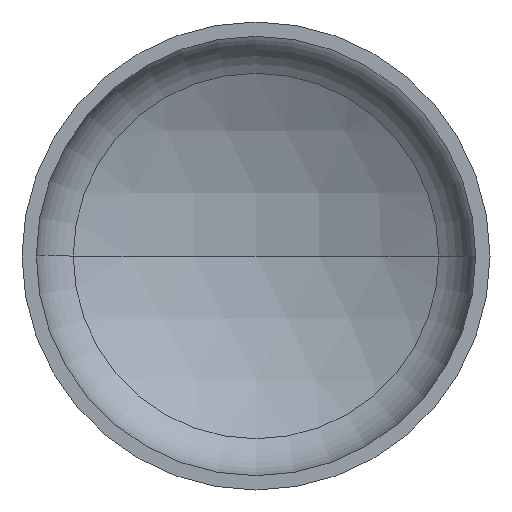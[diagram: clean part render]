
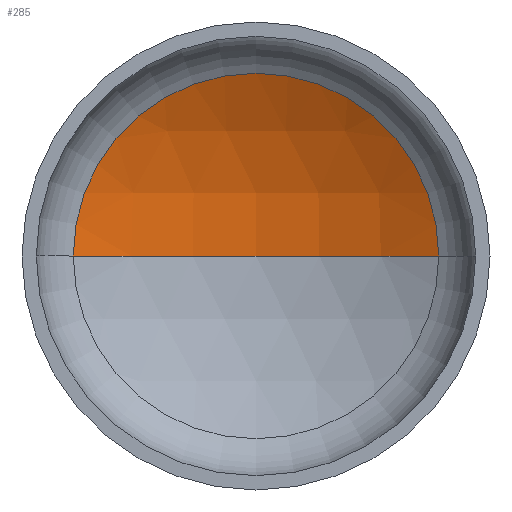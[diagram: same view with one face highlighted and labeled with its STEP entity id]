
A CAD part, front view. The second image highlights one B-rep face of the part: STEP entity #285.
In plain terms, the highlighted spherical face has radius 2880 mm.
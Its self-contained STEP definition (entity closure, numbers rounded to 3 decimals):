
#6 = AXIS2_PLACEMENT_3D ( 'NONE', #367, #234, #388 ) ;
#15 = AXIS2_PLACEMENT_3D ( 'NONE', #274, #90, #302 ) ;
#25 = AXIS2_PLACEMENT_3D ( 'NONE', #316, #362, #297 ) ;
#54 = AXIS2_PLACEMENT_3D ( 'NONE', #315, #177, #338 ) ;
#81 = CIRCLE ( 'NONE', #54, 1405.935 ) ;
#90 = DIRECTION ( 'NONE',  ( 0., 0., 1. ) ) ;
#114 = ORIENTED_EDGE ( 'NONE', *, *, #126, .T. ) ;
#126 = EDGE_CURVE ( 'NONE', #162, #163, #81, .T. ) ;
#128 = EDGE_LOOP ( 'NONE', ( #136, #401, #114 ) ) ;
#136 = ORIENTED_EDGE ( 'NONE', *, *, #337, .F. ) ;
#149 = CIRCLE ( 'NONE', #6, 2880. ) ;
#153 = VERTEX_POINT ( 'NONE', #292 ) ;
#162 = VERTEX_POINT ( 'NONE', #227 ) ;
#163 = VERTEX_POINT ( 'NONE', #360 ) ;
#177 = DIRECTION ( 'NONE',  ( 0., -1., 0. ) ) ;
#200 = FACE_OUTER_BOUND ( 'NONE', #128, .T. ) ;
#227 = CARTESIAN_POINT ( 'NONE',  ( 1405.935, 559.375, 0. ) ) ;
#234 = DIRECTION ( 'NONE',  ( 0., 0., -1. ) ) ;
#238 = SPHERICAL_SURFACE ( 'NONE', #25, 2880. ) ;
#274 = CARTESIAN_POINT ( 'NONE',  ( 0., -1954.138, 0. ) ) ;
#285 = ADVANCED_FACE ( 'NONE', ( #200 ), #238, .F. ) ;
#292 = CARTESIAN_POINT ( 'NONE',  ( 0., 925.862, 0. ) ) ;
#297 = DIRECTION ( 'NONE',  ( -1., 0., 0. ) ) ;
#302 = DIRECTION ( 'NONE',  ( 1., 0., 0. ) ) ;
#315 = CARTESIAN_POINT ( 'NONE',  ( 0., 559.375, 0. ) ) ;
#316 = CARTESIAN_POINT ( 'NONE',  ( 0., -1954.138, 0. ) ) ;
#332 = EDGE_CURVE ( 'NONE', #153, #162, #149, .T. ) ;
#337 = EDGE_CURVE ( 'NONE', #153, #163, #344, .T. ) ;
#338 = DIRECTION ( 'NONE',  ( 1., 0., 0. ) ) ;
#344 = CIRCLE ( 'NONE', #15, 2880. ) ;
#360 = CARTESIAN_POINT ( 'NONE',  ( -1405.935, 559.375, 0. ) ) ;
#362 = DIRECTION ( 'NONE',  ( 0., 0., -1. ) ) ;
#367 = CARTESIAN_POINT ( 'NONE',  ( 0., -1954.138, 0. ) ) ;
#388 = DIRECTION ( 'NONE',  ( -1., 0., 0. ) ) ;
#401 = ORIENTED_EDGE ( 'NONE', *, *, #332, .T. ) ;
